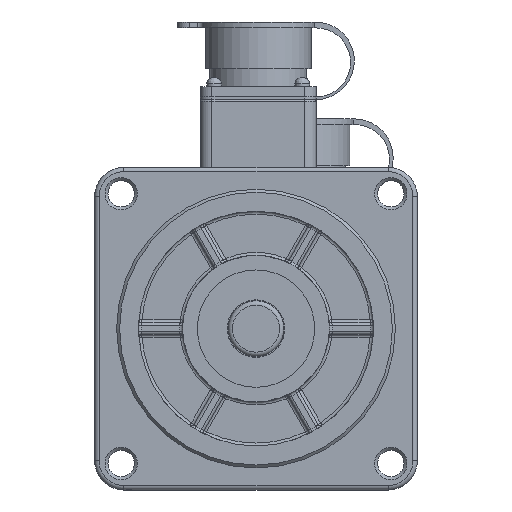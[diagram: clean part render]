
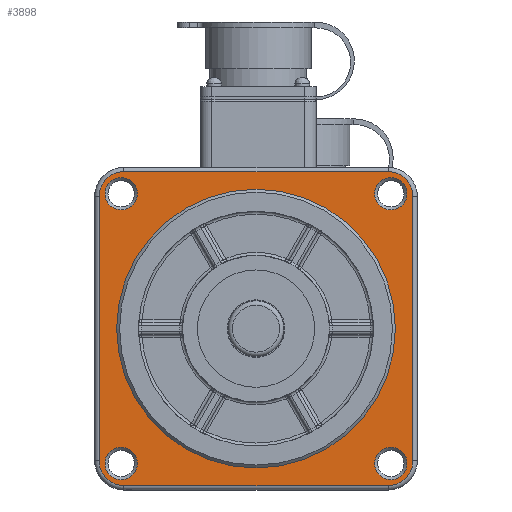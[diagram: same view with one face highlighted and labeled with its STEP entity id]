
A CAD part, front view. The second image highlights one B-rep face of the part: STEP entity #3898.
In plain terms, the highlighted planar face has unit normal (0, -1, 0).
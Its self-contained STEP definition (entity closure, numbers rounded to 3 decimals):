
#440=LINE('',#24110,#1277);
#441=LINE('',#24115,#1278);
#442=LINE('',#24119,#1279);
#443=LINE('',#24123,#1280);
#1277=VECTOR('',#18728,1.);
#1278=VECTOR('',#18731,1.);
#1279=VECTOR('',#18734,1.);
#1280=VECTOR('',#18737,1.);
#3898=ADVANCED_FACE('',(#5228,#5229,#5230,#5231,#5232,#5233),#4848,.F.);
#4848=PLANE('',#16157);
#5228=FACE_BOUND('',#5865,.T.);
#5229=FACE_BOUND('',#5866,.T.);
#5230=FACE_BOUND('',#5867,.T.);
#5231=FACE_BOUND('',#5868,.T.);
#5232=FACE_BOUND('',#5869,.T.);
#5233=FACE_BOUND('',#5870,.T.);
#5865=EDGE_LOOP('',(#7650,#7651,#7652,#7653,#7654,#7655,#7656,#7657));
#5866=EDGE_LOOP('',(#7658));
#5867=EDGE_LOOP('',(#7659));
#5868=EDGE_LOOP('',(#7660));
#5869=EDGE_LOOP('',(#7661));
#5870=EDGE_LOOP('',(#7662));
#7650=ORIENTED_EDGE('',*,*,#13037,.T.);
#7651=ORIENTED_EDGE('',*,*,#13038,.T.);
#7652=ORIENTED_EDGE('',*,*,#13039,.T.);
#7653=ORIENTED_EDGE('',*,*,#13040,.T.);
#7654=ORIENTED_EDGE('',*,*,#13041,.T.);
#7655=ORIENTED_EDGE('',*,*,#13042,.T.);
#7656=ORIENTED_EDGE('',*,*,#13043,.T.);
#7657=ORIENTED_EDGE('',*,*,#13044,.T.);
#7658=ORIENTED_EDGE('',*,*,#13020,.T.);
#7659=ORIENTED_EDGE('',*,*,#13045,.F.);
#7660=ORIENTED_EDGE('',*,*,#13046,.T.);
#7661=ORIENTED_EDGE('',*,*,#13047,.T.);
#7662=ORIENTED_EDGE('',*,*,#13048,.T.);
#11561=VERTEX_POINT('',#24046);
#11574=VERTEX_POINT('',#24111);
#11575=VERTEX_POINT('',#24112);
#11576=VERTEX_POINT('',#24114);
#11577=VERTEX_POINT('',#24116);
#11578=VERTEX_POINT('',#24118);
#11579=VERTEX_POINT('',#24120);
#11580=VERTEX_POINT('',#24122);
#11581=VERTEX_POINT('',#24124);
#11582=VERTEX_POINT('',#24127);
#11583=VERTEX_POINT('',#24129);
#11584=VERTEX_POINT('',#24131);
#11585=VERTEX_POINT('',#24133);
#13020=EDGE_CURVE('',#11561,#11561,#14928,.T.);
#13037=EDGE_CURVE('',#11574,#11575,#440,.T.);
#13038=EDGE_CURVE('',#11575,#11576,#14941,.T.);
#13039=EDGE_CURVE('',#11576,#11577,#441,.T.);
#13040=EDGE_CURVE('',#11577,#11578,#14942,.T.);
#13041=EDGE_CURVE('',#11578,#11579,#442,.T.);
#13042=EDGE_CURVE('',#11579,#11580,#14943,.T.);
#13043=EDGE_CURVE('',#11580,#11581,#443,.T.);
#13044=EDGE_CURVE('',#11581,#11574,#14944,.T.);
#13045=EDGE_CURVE('',#11582,#11582,#14945,.T.);
#13046=EDGE_CURVE('',#11583,#11583,#14946,.T.);
#13047=EDGE_CURVE('',#11584,#11584,#14947,.T.);
#13048=EDGE_CURVE('',#11585,#11585,#14948,.T.);
#14928=CIRCLE('',#16131,5.5);
#14941=CIRCLE('',#16149,8.5);
#14942=CIRCLE('',#16150,8.5);
#14943=CIRCLE('',#16151,8.5);
#14944=CIRCLE('',#16152,8.5);
#14945=CIRCLE('',#16153,47.5);
#14946=CIRCLE('',#16154,5.5);
#14947=CIRCLE('',#16155,5.5);
#14948=CIRCLE('',#16156,5.5);
#16131=AXIS2_PLACEMENT_3D('',#24045,#18690,#18691);
#16149=AXIS2_PLACEMENT_3D('',#24113,#18729,#18730);
#16150=AXIS2_PLACEMENT_3D('',#24117,#18732,#18733);
#16151=AXIS2_PLACEMENT_3D('',#24121,#18735,#18736);
#16152=AXIS2_PLACEMENT_3D('',#24125,#18738,#18739);
#16153=AXIS2_PLACEMENT_3D('',#24126,#18740,#18741);
#16154=AXIS2_PLACEMENT_3D('',#24128,#18742,#18743);
#16155=AXIS2_PLACEMENT_3D('',#24130,#18744,#18745);
#16156=AXIS2_PLACEMENT_3D('',#24132,#18746,#18747);
#16157=AXIS2_PLACEMENT_3D('',#24134,#18748,#18749);
#18690=DIRECTION('',(0.,1.,0.));
#18691=DIRECTION('',(-1.,0.,0.));
#18728=DIRECTION('',(0.,0.,1.));
#18729=DIRECTION('',(0.,-1.,0.));
#18730=DIRECTION('',(0.,0.,1.));
#18731=DIRECTION('',(-1.,0.,0.));
#18732=DIRECTION('',(0.,-1.,0.));
#18733=DIRECTION('',(0.,0.,1.));
#18734=DIRECTION('',(0.,0.,-1.));
#18735=DIRECTION('',(0.,-1.,0.));
#18736=DIRECTION('',(0.,0.,1.));
#18737=DIRECTION('',(1.,0.,0.));
#18738=DIRECTION('',(0.,-1.,0.));
#18739=DIRECTION('',(0.,0.,1.));
#18740=DIRECTION('',(0.,-1.,0.));
#18741=DIRECTION('',(-1.,0.,0.));
#18742=DIRECTION('',(0.,1.,0.));
#18743=DIRECTION('',(-1.,0.,0.));
#18744=DIRECTION('',(0.,1.,0.));
#18745=DIRECTION('',(-1.,0.,0.));
#18746=DIRECTION('',(0.,1.,0.));
#18747=DIRECTION('',(-1.,0.,0.));
#18748=DIRECTION('',(0.,1.,0.));
#18749=DIRECTION('',(1.,0.,0.));
#24045=CARTESIAN_POINT('',(101.086,483.922,-137.154));
#24046=CARTESIAN_POINT('',(95.586,483.922,-137.154));
#24110=CARTESIAN_POINT('',(108.624,483.922,-46.192));
#24111=CARTESIAN_POINT('',(108.624,483.922,-136.192));
#24112=CARTESIAN_POINT('',(108.624,483.922,-46.192));
#24113=CARTESIAN_POINT('',(100.124,483.922,-46.192));
#24114=CARTESIAN_POINT('',(100.124,483.922,-37.692));
#24115=CARTESIAN_POINT('',(10.124,483.922,-37.692));
#24116=CARTESIAN_POINT('',(10.124,483.922,-37.692));
#24117=CARTESIAN_POINT('',(10.124,483.922,-46.192));
#24118=CARTESIAN_POINT('',(1.624,483.922,-46.192));
#24119=CARTESIAN_POINT('',(1.624,483.922,-136.192));
#24120=CARTESIAN_POINT('',(1.624,483.922,-136.192));
#24121=CARTESIAN_POINT('',(10.124,483.922,-136.192));
#24122=CARTESIAN_POINT('',(10.124,483.922,-144.692));
#24123=CARTESIAN_POINT('',(100.124,483.922,-144.692));
#24124=CARTESIAN_POINT('',(100.124,483.922,-144.692));
#24125=CARTESIAN_POINT('',(100.124,483.922,-136.192));
#24126=CARTESIAN_POINT('',(55.124,483.922,-91.192));
#24127=CARTESIAN_POINT('',(7.624,483.922,-91.192));
#24128=CARTESIAN_POINT('',(101.086,483.922,-45.23));
#24129=CARTESIAN_POINT('',(95.586,483.922,-45.23));
#24130=CARTESIAN_POINT('',(9.162,483.922,-45.23));
#24131=CARTESIAN_POINT('',(3.662,483.922,-45.23));
#24132=CARTESIAN_POINT('',(9.162,483.922,-137.154));
#24133=CARTESIAN_POINT('',(3.662,483.922,-137.154));
#24134=CARTESIAN_POINT('',(55.124,483.922,-91.192));
